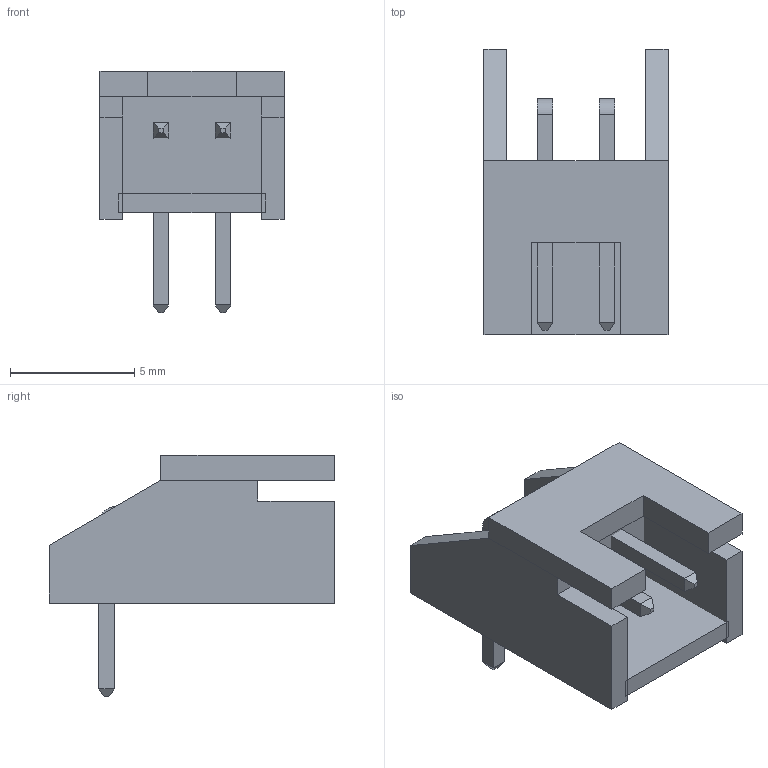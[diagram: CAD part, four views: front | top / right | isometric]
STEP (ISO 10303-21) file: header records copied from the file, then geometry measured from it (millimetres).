
FILE_DESCRIPTION(('FreeCAD Model'),'2;1');
FILE_NAME('Open CASCADE Shape Model','2026-07-31T22:05:20',('FreeCAD'),( 'FreeCAD'),'Open CASCADE STEP processor 7.9','FreeCAD','Unknown');
FILE_SCHEMA(('AUTOMOTIVE_DESIGN { 1 0 10303 214 1 1 1 1 }'));
Length unit declared in the file: millimetre
Products named in the file (1): Open CASCADE STEP translator 7.9 1
Bounding box: 7.42 x 11.51 x 9.75 mm (x, y, z)
Volume: 236 mm3; surface area: 654.9 mm2
Topology: 7 solids, 7 shells, 88 faces, 194 edges, 124 vertices
Faces by surface type: plane 64, bspline 24
Entity records: 2469 total; most frequent: CARTESIAN_POINT 685, ORIENTED_EDGE 388, DIRECTION 238, EDGE_CURVE 194, VERTEX_POINT 124, LINE 108, VECTOR 108, FACE_BOUND 92
